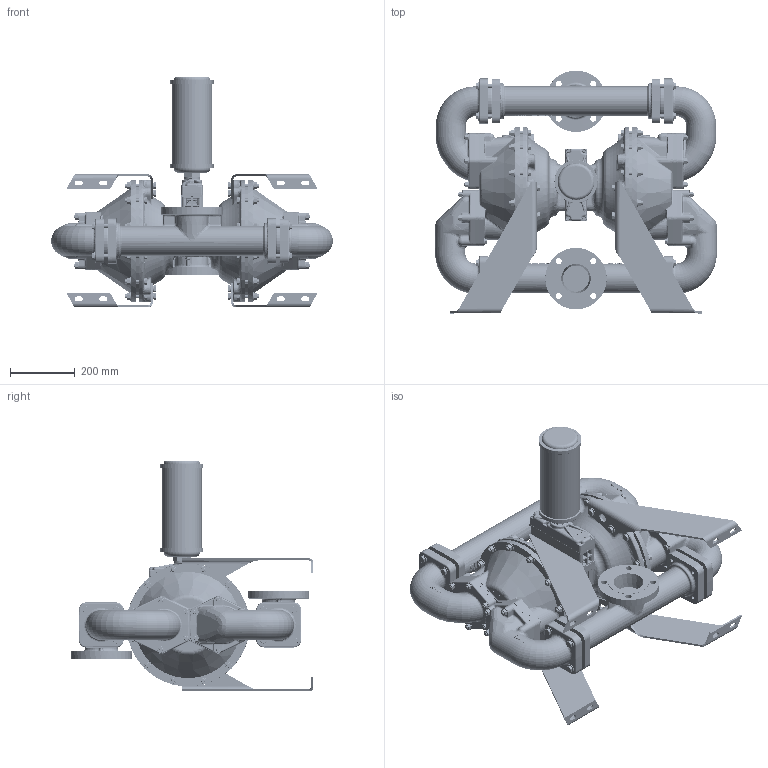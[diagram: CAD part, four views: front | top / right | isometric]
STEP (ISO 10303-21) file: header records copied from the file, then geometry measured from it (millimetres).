
FILE_DESCRIPTION (( 'STEP AP203' ), '1' );
FILE_NAME ('ps1510_brahma_top-step.STEP', '2022-07-01T11:31:37', ( '' ), ( '' ), 'SwSTEP 2.0', 'SolidWorks 2019', '' );
FILE_SCHEMA (( 'CONFIG_CONTROL_DESIGN' ));
Length unit declared in the file: inch
Products named in the file (1): ps1510_brahma_top-step
Bounding box: 873.58 x 753.33 x 716.15 mm (x, y, z)
Volume: 64021343.5 mm3; surface area: 3023181.2 mm2
Topology: 1 solids, 1 shells, 14396 faces, 37699 edges, 23953 vertices
Faces by surface type: plane 9734, cylinder 1891, cone 1465, bspline 707, torus 481, sphere 118
Entity records: 580025 total; most frequent: CARTESIAN_POINT 237660, ORIENTED_EDGE 75320, DIRECTION 64761, EDGE_CURVE 37660, VERTEX_POINT 23953, VECTOR 23945, LINE 23945, AXIS2_PLACEMENT_3D 20408
